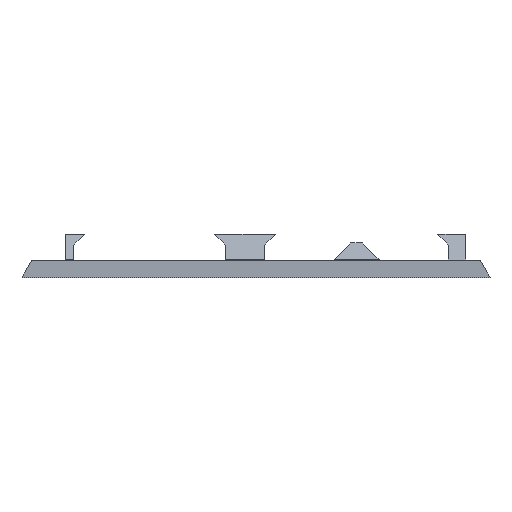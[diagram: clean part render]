
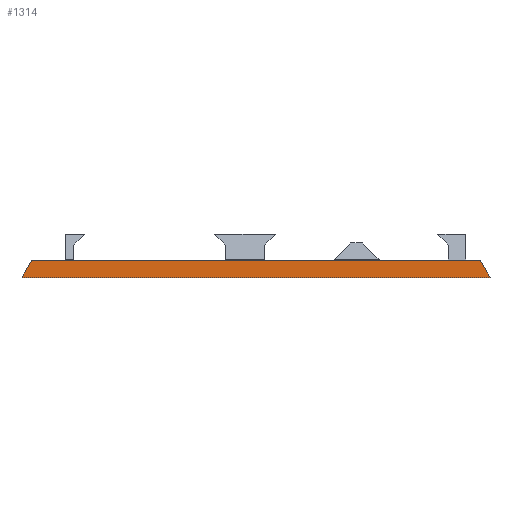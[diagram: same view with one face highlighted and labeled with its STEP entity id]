
A CAD part, front view. The second image highlights one B-rep face of the part: STEP entity #1314.
In plain terms, the highlighted planar face has unit normal (0, -1, 0).
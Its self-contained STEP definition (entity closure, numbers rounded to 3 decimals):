
#91=VERTEX_POINT('',#1738);
#92=VERTEX_POINT('',#1740);
#93=VERTEX_POINT('',#1744);
#110=VERTEX_POINT('',#1781);
#150=VERTEX_POINT('',#1864);
#191=VERTEX_POINT('',#2120);
#226=VECTOR('',#1449,1.);
#229=VECTOR('',#1453,1.);
#238=VECTOR('',#1481,1.);
#269=VECTOR('',#1535,1.);
#336=VECTOR('',#1640,1.);
#339=VECTOR('',#1645,1.);
#384=LINE('',#1739,#226);
#387=LINE('',#1745,#229);
#396=LINE('',#1780,#238);
#427=LINE('',#1865,#269);
#494=LINE('',#2121,#336);
#497=LINE('',#2127,#339);
#542=EDGE_CURVE('',#92,#91,#384,.T.);
#545=EDGE_CURVE('',#93,#91,#387,.T.);
#564=EDGE_CURVE('',#110,#92,#396,.T.);
#613=EDGE_CURVE('',#93,#150,#427,.T.);
#685=EDGE_CURVE('',#191,#150,#494,.T.);
#689=EDGE_CURVE('',#110,#191,#497,.T.);
#1007=ORIENTED_EDGE('',*,*,#685,.F.);
#1008=ORIENTED_EDGE('',*,*,#689,.F.);
#1009=ORIENTED_EDGE('',*,*,#564,.T.);
#1010=ORIENTED_EDGE('',*,*,#542,.T.);
#1011=ORIENTED_EDGE('',*,*,#545,.F.);
#1012=ORIENTED_EDGE('',*,*,#613,.T.);
#1156=EDGE_LOOP('',(#1007,#1008,#1009,#1010,#1011,#1012));
#1244=FACE_BOUND('',#1156,.T.);
#1314=ADVANCED_FACE('',(#1244),#2191,.T.);
#1395=AXIS2_PLACEMENT_3D('',#2126,#1644,$);
#1449=DIRECTION('',(0.,0.,1.));
#1453=DIRECTION('',(0.5,0.,-0.866));
#1481=DIRECTION('',(1.,0.,0.));
#1535=DIRECTION('',(-1.,0.,0.));
#1640=DIRECTION('',(0.5,0.,0.866));
#1644=DIRECTION('',(0.,-1.,0.));
#1645=DIRECTION('',(0.,0.,1.));
#1738=CARTESIAN_POINT('',(27.,-26.294,0.05));
#1739=CARTESIAN_POINT('',(27.,-26.294,0.));
#1740=CARTESIAN_POINT('',(27.,-26.294,0.));
#1744=CARTESIAN_POINT('',(25.874,-26.294,2.));
#1745=CARTESIAN_POINT('',(23.354,-26.294,6.364));
#1780=CARTESIAN_POINT('',(-27.,-26.294,0.));
#1781=CARTESIAN_POINT('',(-27.,-26.294,0.));
#1864=CARTESIAN_POINT('',(-25.874,-26.294,2.));
#1865=CARTESIAN_POINT('',(-27.,-26.294,2.));
#2120=CARTESIAN_POINT('',(-27.,-26.294,0.05));
#2121=CARTESIAN_POINT('',(-23.354,-26.294,6.364));
#2126=CARTESIAN_POINT('',(0.,-26.294,0.));
#2127=CARTESIAN_POINT('',(-27.,-26.294,0.));
#2191=PLANE('',#1395);
